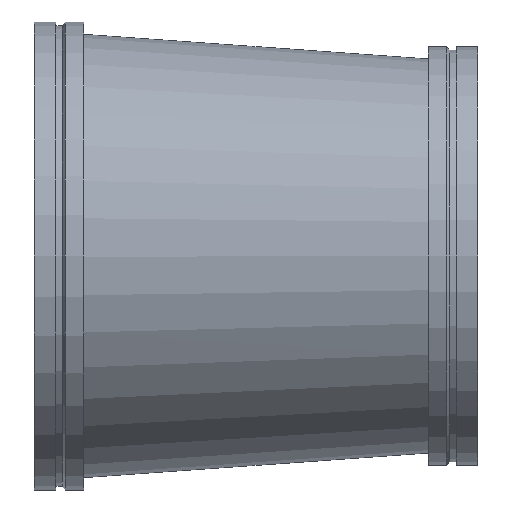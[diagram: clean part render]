
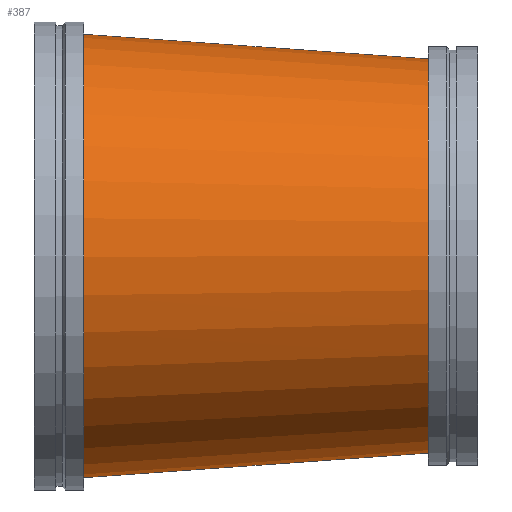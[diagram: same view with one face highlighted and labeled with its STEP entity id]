
A CAD part, front view. The second image highlights one B-rep face of the part: STEP entity #387.
In plain terms, the highlighted free-form (B-spline) face has degree [1, 2] with [2, 9] control points.
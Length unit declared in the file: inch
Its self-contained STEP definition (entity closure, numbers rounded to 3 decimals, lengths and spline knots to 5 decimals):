
#46=B_SPLINE_CURVE_WITH_KNOTS('',1,(#747,#748),.UNSPECIFIED.,.F.,.F.,(2,
2),(-1.56377,-0.00036),.UNSPECIFIED.);
#48=(
BOUNDED_SURFACE()
B_SPLINE_SURFACE(1,2,((#729,#730,#731,#732,#733,#734,#735,#736,#737),(#738,
#739,#740,#741,#742,#743,#744,#745,#746)),.UNSPECIFIED.,.F.,.T.,.F.)
B_SPLINE_SURFACE_WITH_KNOTS((2,2),(3,2,2,2,3),(-0.07107,1.62662),
(-3.14159,-1.5708,0.,1.5708,3.14159),
 .UNSPECIFIED.)
GEOMETRIC_REPRESENTATION_ITEM()
RATIONAL_B_SPLINE_SURFACE(((1.,0.707,1.,0.707,1.,
0.707,1.,0.707,1.),(1.,0.707,1.,0.707,
1.,0.707,1.,0.707,1.)))
REPRESENTATION_ITEM('')
SURFACE()
);
#98=FACE_OUTER_BOUND('',#120,.T.);
#120=EDGE_LOOP('',(#321,#322,#323,#324,#325,#326));
#129=CIRCLE('',#415,16.);
#130=CIRCLE('',#416,16.);
#153=CIRCLE('',#450,18.);
#154=CIRCLE('',#451,18.);
#166=VERTEX_POINT('',#628);
#167=VERTEX_POINT('',#629);
#190=VERTEX_POINT('',#695);
#191=VERTEX_POINT('',#696);
#203=EDGE_CURVE('',#166,#167,#129,.T.);
#204=EDGE_CURVE('',#167,#166,#130,.T.);
#235=EDGE_CURVE('',#190,#191,#153,.T.);
#236=EDGE_CURVE('',#191,#190,#154,.T.);
#243=EDGE_CURVE('',#167,#191,#46,.T.);
#321=ORIENTED_EDGE('',*,*,#203,.T.);
#322=ORIENTED_EDGE('',*,*,#243,.T.);
#323=ORIENTED_EDGE('',*,*,#236,.T.);
#324=ORIENTED_EDGE('',*,*,#235,.T.);
#325=ORIENTED_EDGE('',*,*,#243,.F.);
#326=ORIENTED_EDGE('',*,*,#204,.T.);
#387=ADVANCED_FACE('',(#98),#48,.F.);
#415=AXIS2_PLACEMENT_3D('',#630,#486,#487);
#416=AXIS2_PLACEMENT_3D('',#631,#488,#489);
#450=AXIS2_PLACEMENT_3D('',#697,#564,#565);
#451=AXIS2_PLACEMENT_3D('',#698,#566,#567);
#486=DIRECTION('center_axis',(-1.,0.,0.));
#487=DIRECTION('ref_axis',(0.,-1.,0.));
#488=DIRECTION('center_axis',(-1.,0.,0.));
#489=DIRECTION('ref_axis',(0.,-1.,0.));
#564=DIRECTION('center_axis',(1.,0.,0.));
#565=DIRECTION('ref_axis',(0.,1.,0.));
#566=DIRECTION('center_axis',(1.,0.,0.));
#567=DIRECTION('ref_axis',(0.,1.,0.));
#628=CARTESIAN_POINT('',(32.,-18.,0.));
#629=CARTESIAN_POINT('',(32.,-2.08081,15.9998));
#630=CARTESIAN_POINT('Origin',(32.,-2.,0.));
#631=CARTESIAN_POINT('Origin',(32.,-2.,0.));
#695=CARTESIAN_POINT('',(4.,18.,0.));
#696=CARTESIAN_POINT('',(4.,-0.09091,17.99977));
#697=CARTESIAN_POINT('Origin',(4.,0.,0.));
#698=CARTESIAN_POINT('Origin',(4.,0.,0.));
#729=CARTESIAN_POINT('Ctrl Pts',(2.72078,0.,
18.09114));
#730=CARTESIAN_POINT('Ctrl Pts',(1.44156,-18.,18.09114));
#731=CARTESIAN_POINT('Ctrl Pts',(1.44156,-18.,0.));
#732=CARTESIAN_POINT('Ctrl Pts',(1.44156,-18.,-18.09114));
#733=CARTESIAN_POINT('Ctrl Pts',(2.72078,0.,
-18.09114));
#734=CARTESIAN_POINT('Ctrl Pts',(4.,18.,-18.09114));
#735=CARTESIAN_POINT('Ctrl Pts',(4.,18.,0.));
#736=CARTESIAN_POINT('Ctrl Pts',(4.,18.,18.09114));
#737=CARTESIAN_POINT('Ctrl Pts',(2.72078,0.,
18.09114));
#738=CARTESIAN_POINT('Ctrl Pts',(33.12566,-2.16081,15.91939));
#739=CARTESIAN_POINT('Ctrl Pts',(32.,-18.,15.91939));
#740=CARTESIAN_POINT('Ctrl Pts',(32.,-18.,0.));
#741=CARTESIAN_POINT('Ctrl Pts',(32.,-18.,-15.91939));
#742=CARTESIAN_POINT('Ctrl Pts',(33.12566,-2.16081,-15.91939));
#743=CARTESIAN_POINT('Ctrl Pts',(34.25131,13.67838,-15.91939));
#744=CARTESIAN_POINT('Ctrl Pts',(34.25131,13.67838,0.));
#745=CARTESIAN_POINT('Ctrl Pts',(34.25131,13.67838,15.91939));
#746=CARTESIAN_POINT('Ctrl Pts',(33.12566,-2.16081,15.91939));
#747=CARTESIAN_POINT('Ctrl Pts',(32.,-2.08081,15.9998));
#748=CARTESIAN_POINT('Ctrl Pts',(4.,-0.09091,17.99977));
